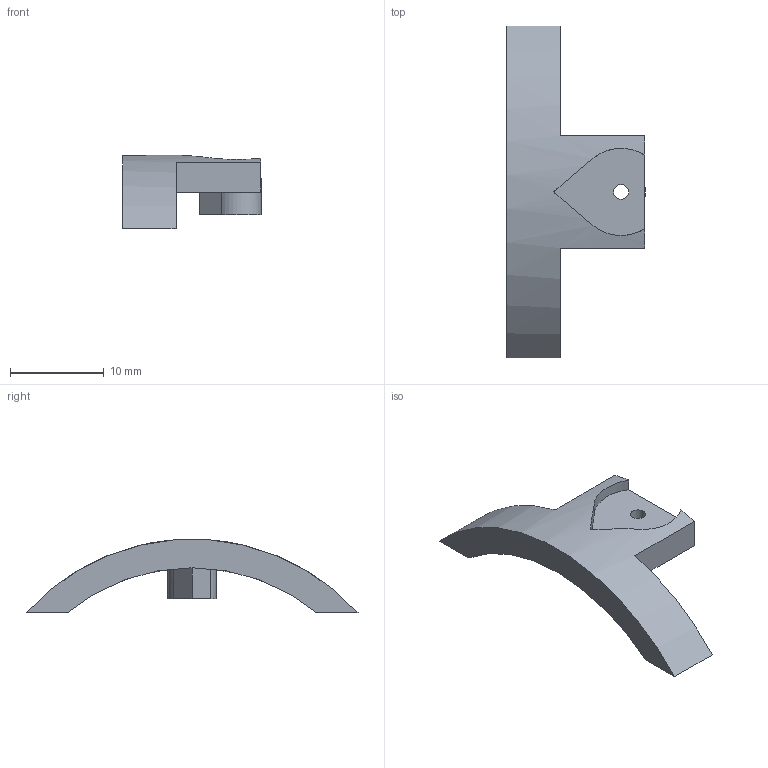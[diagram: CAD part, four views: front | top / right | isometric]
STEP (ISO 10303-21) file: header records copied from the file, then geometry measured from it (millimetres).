
FILE_DESCRIPTION(('SkyG Speed 120B - revision C7B-1 - 2026-10-09','HL1-hatch-lip-front'),'2;1');
FILE_NAME('HL1-hatch-lip-front_C7B-1','2026-10-09T15:13:01',('Author'),( 'Open CASCADE'),'Open CASCADE STEP processor 7.9','Open CASCADE 7.9' ,'Unknown');
FILE_SCHEMA(('AUTOMOTIVE_DESIGN { 1 0 10303 214 1 1 1 1 }'));
Length unit declared in the file: millimetre
Products named in the file (1): HL1-hatch-lip-front C7B-1
Bounding box: 14.8 x 35.37 x 7.85 mm (x, y, z)
Volume: 905.2 mm3; surface area: 1024.2 mm2
Topology: 1 solids, 1 shells, 21 faces, 59 edges, 40 vertices
Faces by surface type: plane 15, cylinder 6
Full cylindrical faces by diameter (mm): 1.6 x1
Entity records: 1720 total; most frequent: CARTESIAN_POINT 609, DIRECTION 184, ORIENTED_EDGE 118, PCURVE 118, DEFINITIONAL_REPRESENTATION 118, LINE 78, VECTOR 78, EDGE_CURVE 59
